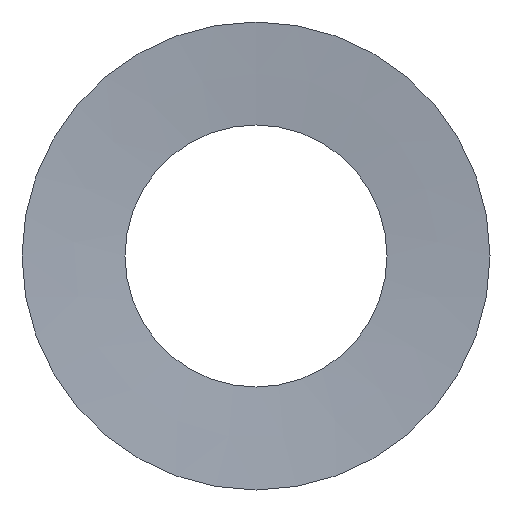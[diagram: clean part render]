
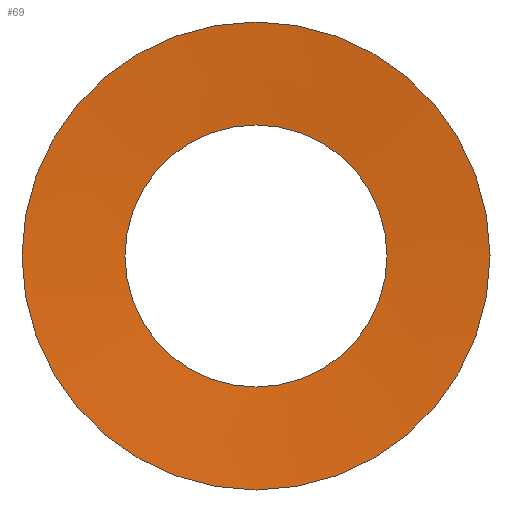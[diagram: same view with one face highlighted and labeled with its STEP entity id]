
A CAD part, front view. The second image highlights one B-rep face of the part: STEP entity #69.
In plain terms, the highlighted conical face has half-angle 85.508 degrees and reference radius 78 mm.
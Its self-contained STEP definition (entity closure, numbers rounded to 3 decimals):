
#19=FACE_OUTER_BOUND('',#23,.T.);
#23=EDGE_LOOP('',(#57,#58,#59,#60));
#27=LINE('',#137,#31);
#31=VECTOR('',#118,78.);
#35=CIRCLE('',#98,56.);
#36=CIRCLE('',#100,100.);
#39=VERTEX_POINT('',#132);
#40=VERTEX_POINT('',#136);
#45=EDGE_CURVE('',#39,#39,#35,.T.);
#46=EDGE_CURVE('',#39,#40,#27,.T.);
#47=EDGE_CURVE('',#40,#40,#36,.T.);
#57=ORIENTED_EDGE('',*,*,#45,.T.);
#58=ORIENTED_EDGE('',*,*,#46,.T.);
#59=ORIENTED_EDGE('',*,*,#47,.F.);
#60=ORIENTED_EDGE('',*,*,#46,.F.);
#66=CONICAL_SURFACE('',#99,78.,1.492);
#69=ADVANCED_FACE('',(#19),#66,.F.);
#98=AXIS2_PLACEMENT_3D('',#134,#114,#115);
#99=AXIS2_PLACEMENT_3D('',#135,#116,#117);
#100=AXIS2_PLACEMENT_3D('',#138,#119,#120);
#114=DIRECTION('center_axis',(0.,1.,0.));
#115=DIRECTION('ref_axis',(1.,0.,0.));
#116=DIRECTION('center_axis',(0.,-1.,0.));
#117=DIRECTION('ref_axis',(0.,0.,-1.));
#118=DIRECTION('',(0.,-0.078,0.997));
#119=DIRECTION('center_axis',(0.,1.,0.));
#120=DIRECTION('ref_axis',(1.,0.,0.));
#132=CARTESIAN_POINT('',(0.,3.457,56.));
#134=CARTESIAN_POINT('Origin',(0.,3.457,0.));
#135=CARTESIAN_POINT('Origin',(0.,1.728,0.));
#136=CARTESIAN_POINT('',(0.,0.,100.));
#137=CARTESIAN_POINT('',(0.,1.728,78.));
#138=CARTESIAN_POINT('Origin',(0.,0.,0.));
